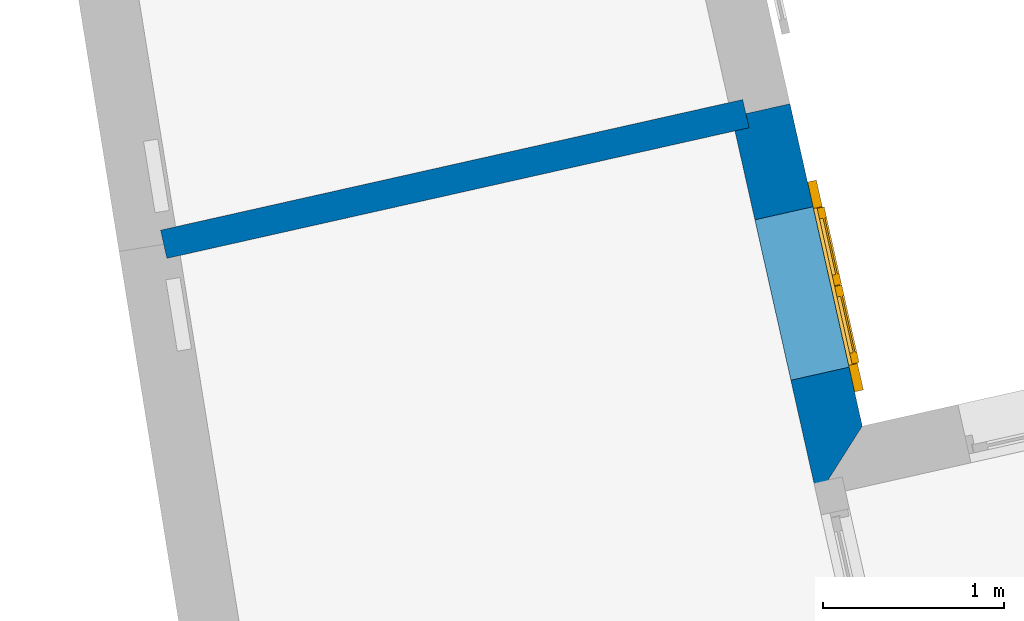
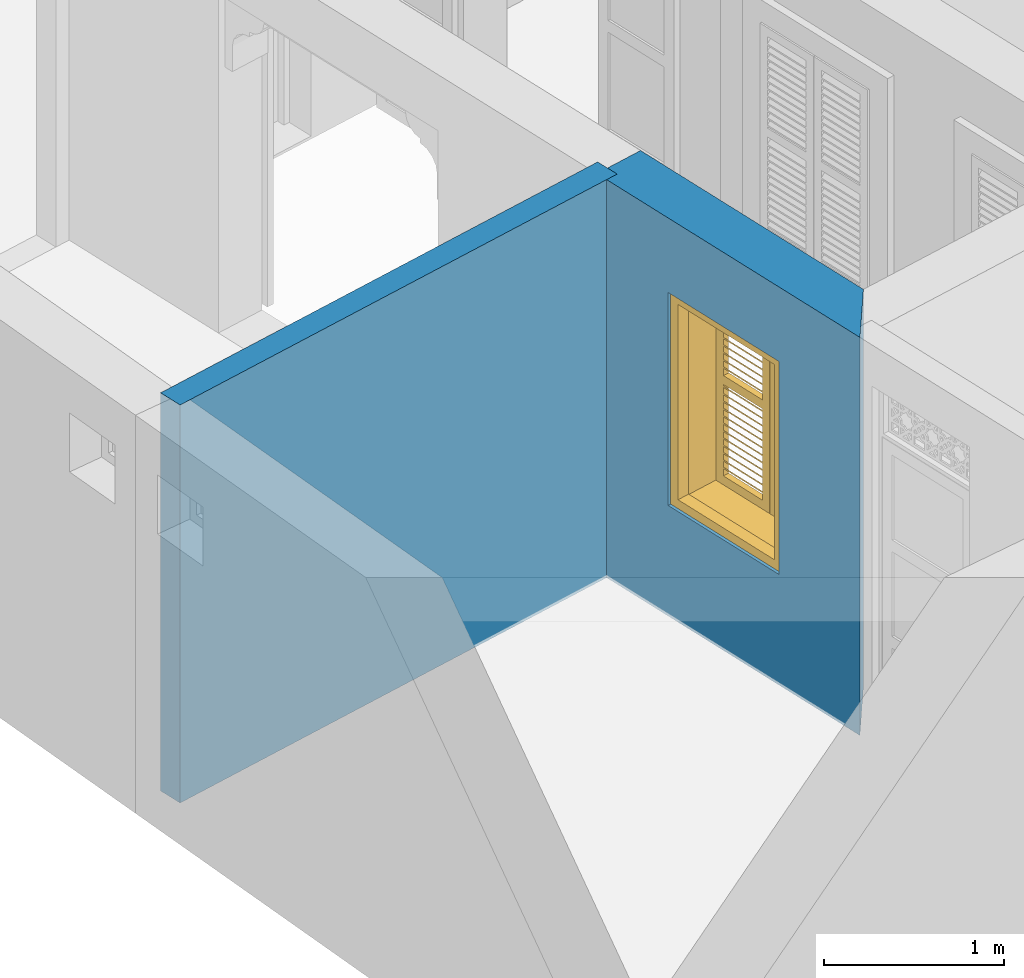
# One storey, part 5 of 13: 2 walls, 1 window, 1 opening.
"""IFC4 building model written with IfcOpenShell, lengths in metres."""

from ifc_helpers import new_model, si_unit, frame, origin, origin_with_axes, place, context, subcontext, project, spatial, polyline, outline, extrude, faceted_brep, source, transform, mapped, material, layer, layer_set, layer_usage, type_object, type_shapes, element, fill, save


model = new_model("IFC4")

# Units and contexts
model_context = context("Model", 3, world=origin_with_axes())
body_context = subcontext(model_context, "Body", "Model", "MODEL_VIEW")
ifc_project = project(units=[si_unit("PLANEANGLEUNIT", "RADIAN"), si_unit("MASSUNIT", "GRAM", prefix="KILO"), si_unit("FORCEUNIT", "NEWTON", prefix="KILO"), si_unit("LENGTHUNIT", "METRE"), si_unit("AREAUNIT", "SQUARE_METRE"), si_unit("VOLUMEUNIT", "CUBIC_METRE")], contexts=[model_context, model_context])

# Site, building, storey
site_placement = place(None, origin_with_axes())
site = spatial("IfcSite", under=ifc_project, at=site_placement, Name="Site plot-10", CompositionType="ELEMENT")
building_placement = place(None, origin_with_axes())
building = spatial("IfcBuilding", under=site, at=building_placement, Name="Building plot-10", CompositionType="ELEMENT")
storey_placement = place(None, origin_with_axes())
storey = spatial("IfcBuildingStorey", under=building, at=storey_placement, Name="plot-10 0", CompositionType="ELEMENT", Elevation=0.0)

# Wall, opening, window
ifc_material_1 = material(Name="Masonry")
ifc_layer_1 = layer(ifc_material_1, 0.33, ventilated=False)
ifc_layer_set_1 = layer_set([ifc_layer_1], Name="exterior_0.08_0.25")
ifc_layer_usage_1 = layer_usage(ifc_layer_set_1, "AXIS2", "POSITIVE", -0.25)
wall_type_1 = type_object("IfcWallType", Name="exterior_0.08_0.25", PredefinedType="SOLIDWALL", material=ifc_layer_set_1)
wall_1_placement = place(storey_placement, frame((-20.1259409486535, 10.8494225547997, 0.0), z_axis=(0.0, 0.0, 1.0), x_axis=(-0.218925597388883, 0.975741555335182, 0.0)))
wall_1 = element("IfcWall", 1, at=wall_1_placement, inside=storey, type_object=wall_type_1, material=ifc_layer_usage_1, Name="exterior", context=body_context, shape_type="SweptSolid", body=[
    extrude(outline(polyline([(-0.079999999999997, 0.0799999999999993), (0.249999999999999, -0.249999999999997), (2.07804371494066, -0.249999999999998), (2.07804371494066, 0.0799999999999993), (-0.079999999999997, 0.0799999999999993)])), origin_with_axes(), (0.0, 0.0, 1.0), 2.7),
])
opening_placement = place(wall_1_placement, frame((0.58402185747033, 0.0, 0.75)))
opening = element("IfcOpeningElement", 2, at=opening_placement, cuts=wall_1, Name="My Opening", ObjectType="Opening", context=body_context, shape_type="SweptSolid", body=[
    extrude(outline(polyline([(0.0, -0.269999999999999), (0.909999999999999, -0.269999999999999), (0.91, 1.1), (2.22044604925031e-16, 1.1), (0.0, -0.269999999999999)])), origin_with_axes(), (0.0, 0.0, 1.0), 1.445),
])
window_type = type_object("IfcWindowType", Name="shuttered_shorter", PartitioningType="DOUBLE_PANEL_HORIZONTAL", PredefinedType="NOTDEFINED")
shared_shape = source(origin(), body_context, "Body", "Brep", [
    faceted_brep([(0.393, 0.0, 0.622), (0.074, 0.0, 0.622), (0.074, 0.0, 0.632), (0.393, 0.0, 0.632), (0.074, -0.04, 0.592), (0.393, -0.04, 0.592), (0.393, -0.04, 0.582), (0.074, -0.04, 0.582), (0.517, 0.0, 0.682), (0.836, 0.0, 0.682), (0.836, 0.0, 0.672), (0.517, 0.0, 0.672), (0.517, -0.04, 0.642), (0.836, -0.04, 0.642), (0.836, -0.04, 0.632), (0.517, -0.04, 0.632), (0.517, 0.0, 0.632), (0.836, 0.0, 0.632), (0.836, 0.0, 0.622), (0.517, 0.0, 0.622), (0.517, -0.04, 0.592), (0.836, -0.04, 0.592), (0.836, -0.04, 0.582), (0.517, -0.04, 0.582), (0.517, 0.0, 0.232), (0.836, 0.0, 0.232), (0.836, 0.0, 0.222), (0.517, 0.0, 0.222), (0.517, -0.04, 0.192), (0.836, -0.04, 0.192), (0.836, -0.04, 0.182), (0.517, -0.04, 0.182), (0.517, 0.0, 0.532), (0.836, 0.0, 0.532), (0.836, 0.0, 0.522), (0.517, 0.0, 0.522), (0.517, -0.04, 0.492), (0.836, -0.04, 0.492), (0.836, -0.04, 0.482), (0.517, -0.04, 0.482), (0.517, 0.0, 0.482), (0.836, 0.0, 0.482), (0.836, 0.0, 0.472), (0.517, 0.0, 0.472), (0.517, -0.04, 0.442), (0.836, -0.04, 0.442), (0.836, -0.04, 0.432), (0.517, -0.04, 0.432), (0.517, 0.0, 0.582), (0.836, 0.0, 0.582), (0.836, 0.0, 0.572), (0.517, 0.0, 0.572), (0.517, -0.04, 0.542), (0.836, -0.04, 0.542), (0.836, -0.04, 0.532), (0.517, -0.04, 0.532), (0.517, 0.0, 0.182), (0.836, 0.0, 0.182), (0.836, 0.0, 0.172), (0.517, 0.0, 0.172), (0.517, -0.04, 0.142), (0.836, -0.04, 0.142), (0.836, -0.04, 0.132), (0.517, -0.04, 0.132), (0.517, 0.0, 0.382), (0.836, 0.0, 0.382), (0.836, 0.0, 0.372), (0.517, 0.0, 0.372), (0.517, -0.04, 0.342), (0.836, -0.04, 0.342), (0.836, -0.04, 0.332), (0.517, -0.04, 0.332), (0.517, 0.0, 0.432), (0.836, 0.0, 0.432), (0.836, 0.0, 0.422), (0.517, 0.0, 0.422), (0.517, -0.04, 0.392), (0.836, -0.04, 0.392), (0.836, -0.04, 0.382), (0.517, -0.04, 0.382), (0.517, 0.0, 0.132), (0.836, 0.0, 0.132), (0.836, 0.0, 0.122), (0.517, 0.0, 0.122), (0.517, -0.04, 0.092), (0.836, -0.04, 0.092), (0.836, -0.04, 0.082), (0.517, -0.04, 0.082), (0.517, 0.0, 0.282), (0.836, 0.0, 0.282), (0.836, 0.0, 0.272), (0.517, 0.0, 0.272), (0.517, -0.04, 0.242), (0.836, -0.04, 0.242), (0.836, -0.04, 0.232), (0.517, -0.04, 0.232), (0.517, 0.0, 0.332), (0.836, 0.0, 0.332), (0.836, 0.0, 0.322), (0.517, 0.0, 0.322), (0.517, -0.04, 0.292), (0.836, -0.04, 0.292), (0.836, -0.04, 0.282), (0.517, -0.04, 0.282), (0.517, 0.0, 1.362667), (0.836, 0.0, 1.362667), (0.836, 0.0, 1.352667), (0.517, 0.0, 1.352667), (0.517, -0.04, 1.322667), (0.836, -0.04, 1.322667), (0.836, -0.04, 1.312667), (0.517, -0.04, 1.312667), (0.517, 0.0, 1.312667), (0.836, 0.0, 1.312667), (0.836, 0.0, 1.302667), (0.517, 0.0, 1.302667), (0.517, -0.04, 1.272667), (0.836, -0.04, 1.272667), (0.836, -0.04, 1.262667), (0.517, -0.04, 1.262667), (0.517, 0.0, 0.912667), (0.836, 0.0, 0.912667), (0.836, 0.0, 0.902667), (0.517, 0.0, 0.902667), (0.517, -0.04, 0.872667), (0.836, -0.04, 0.872667), (0.836, -0.04, 0.862667), (0.517, -0.04, 0.862667), (0.517, 0.0, 1.212667), (0.836, 0.0, 1.212667), (0.836, 0.0, 1.202667), (0.517, 0.0, 1.202667), (0.517, -0.04, 1.172667), (0.836, -0.04, 1.172667), (0.836, -0.04, 1.162667), (0.517, -0.04, 1.162667), (0.517, 0.0, 1.162667), (0.836, 0.0, 1.162667), (0.836, 0.0, 1.152667), (0.517, 0.0, 1.152667), (0.517, -0.04, 1.122667), (0.836, -0.04, 1.122667), (0.836, -0.04, 1.112667), (0.517, -0.04, 1.112667), (0.517, 0.0, 1.262667), (0.836, 0.0, 1.262667), (0.836, 0.0, 1.252667), (0.517, 0.0, 1.252667), (0.517, -0.04, 1.222667), (0.836, -0.04, 1.222667), (0.836, -0.04, 1.212667), (0.517, -0.04, 1.212667), (0.517, 0.0, 0.862667), (0.836, 0.0, 0.862667), (0.836, 0.0, 0.852667), (0.517, 0.0, 0.852667), (0.517, -0.04, 0.822667), (0.836, -0.04, 0.822667), (0.836, -0.04, 0.812667), (0.517, -0.04, 0.812667), (0.517, 0.0, 1.062667), (0.836, 0.0, 1.062667), (0.836, 0.0, 1.052667), (0.517, 0.0, 1.052667), (0.517, -0.04, 1.022667), (0.836, -0.04, 1.022667), (0.836, -0.04, 1.012667), (0.517, -0.04, 1.012667), (0.517, 0.0, 1.112667), (0.836, 0.0, 1.112667), (0.836, 0.0, 1.102667), (0.517, 0.0, 1.102667), (0.517, -0.04, 1.072667), (0.836, -0.04, 1.072667), (0.836, -0.04, 1.062667), (0.517, -0.04, 1.062667), (0.517, 0.0, 0.812667), (0.836, 0.0, 0.812667), (0.836, 0.0, 0.802667), (0.517, 0.0, 0.802667), (0.517, -0.04, 0.772667), (0.836, -0.04, 0.772667), (0.836, -0.04, 0.762667), (0.517, -0.04, 0.762667), (0.517, 0.0, 0.962667), (0.836, 0.0, 0.962667), (0.836, 0.0, 0.952667), (0.517, 0.0, 0.952667), (0.517, -0.04, 0.922667), (0.836, -0.04, 0.922667), (0.836, -0.04, 0.912667), (0.517, -0.04, 0.912667), (0.517, 0.0, 1.012667), (0.836, 0.0, 1.012667), (0.836, 0.0, 1.002667), (0.517, 0.0, 1.002667), (0.517, -0.04, 0.972667), (0.836, -0.04, 0.972667), (0.836, -0.04, 0.962667), (0.517, -0.04, 0.962667), (0.074, 0.0, 0.682), (0.393, 0.0, 0.682), (0.393, 0.0, 0.672), (0.074, 0.0, 0.672), (0.074, -0.04, 0.642), (0.393, -0.04, 0.642), (0.393, -0.04, 0.632), (0.074, -0.04, 0.632), (0.074, 0.0, 0.232), (0.393, 0.0, 0.232), (0.393, 0.0, 0.222), (0.074, 0.0, 0.222), (0.074, -0.04, 0.192), (0.393, -0.04, 0.192), (0.393, -0.04, 0.182), (0.074, -0.04, 0.182), (0.074, 0.0, 0.532), (0.393, 0.0, 0.532), (0.393, 0.0, 0.522), (0.074, 0.0, 0.522), (0.074, -0.04, 0.492), (0.393, -0.04, 0.492), (0.393, -0.04, 0.482), (0.074, -0.04, 0.482), (0.074, 0.0, 0.482), (0.393, 0.0, 0.482), (0.393, 0.0, 0.472), (0.074, 0.0, 0.472), (0.074, -0.04, 0.442), (0.393, -0.04, 0.442), (0.393, -0.04, 0.432), (0.074, -0.04, 0.432), (0.074, 0.0, 0.582), (0.393, 0.0, 0.582), (0.393, 0.0, 0.572), (0.074, 0.0, 0.572), (0.074, -0.04, 0.542), (0.393, -0.04, 0.542), (0.393, -0.04, 0.532), (0.074, -0.04, 0.532), (0.074, 0.0, 0.182), (0.393, 0.0, 0.182), (0.393, 0.0, 0.172), (0.074, 0.0, 0.172), (0.074, -0.04, 0.142), (0.393, -0.04, 0.142), (0.393, -0.04, 0.132), (0.074, -0.04, 0.132), (0.074, 0.0, 0.382), (0.393, 0.0, 0.382), (0.393, 0.0, 0.372), (0.074, 0.0, 0.372), (0.074, -0.04, 0.342), (0.393, -0.04, 0.342), (0.393, -0.04, 0.332), (0.074, -0.04, 0.332), (0.074, 0.0, 0.432), (0.393, 0.0, 0.432), (0.393, 0.0, 0.422), (0.074, 0.0, 0.422), (0.074, -0.04, 0.392), (0.393, -0.04, 0.392), (0.393, -0.04, 0.382), (0.074, -0.04, 0.382), (0.074, 0.0, 0.132), (0.393, 0.0, 0.132), (0.393, 0.0, 0.122), (0.074, 0.0, 0.122), (0.074, -0.04, 0.092), (0.393, -0.04, 0.092), (0.393, -0.04, 0.082), (0.074, -0.04, 0.082), (0.074, 0.0, 0.282), (0.393, 0.0, 0.282), (0.393, 0.0, 0.272), (0.074, 0.0, 0.272), (0.074, -0.04, 0.242), (0.393, -0.04, 0.242), (0.393, -0.04, 0.232), (0.074, -0.04, 0.232), (0.074, 0.0, 0.332), (0.393, 0.0, 0.332), (0.393, 0.0, 0.322), (0.074, 0.0, 0.322), (0.074, -0.04, 0.292), (0.393, -0.04, 0.292), (0.393, -0.04, 0.282), (0.074, -0.04, 0.282), (0.074, 0.0, 1.362667), (0.393, 0.0, 1.362667), (0.393, 0.0, 1.352667), (0.074, 0.0, 1.352667), (0.074, -0.04, 1.322667), (0.393, -0.04, 1.322667), (0.393, -0.04, 1.312667), (0.074, -0.04, 1.312667), (0.074, 0.0, 1.312667), (0.393, 0.0, 1.312667), (0.393, 0.0, 1.302667), (0.074, 0.0, 1.302667), (0.074, -0.04, 1.272667), (0.393, -0.04, 1.272667), (0.393, -0.04, 1.262667), (0.074, -0.04, 1.262667), (0.074, 0.0, 0.912667), (0.393, 0.0, 0.912667), (0.393, 0.0, 0.902667), (0.074, 0.0, 0.902667), (0.074, -0.04, 0.872667), (0.393, -0.04, 0.872667), (0.393, -0.04, 0.862667), (0.074, -0.04, 0.862667), (0.074, 0.0, 1.212667), (0.393, 0.0, 1.212667), (0.393, 0.0, 1.202667), (0.074, 0.0, 1.202667), (0.074, -0.04, 1.172667), (0.393, -0.04, 1.172667), (0.393, -0.04, 1.162667), (0.074, -0.04, 1.162667), (0.074, 0.0, 1.162667), (0.393, 0.0, 1.162667), (0.393, 0.0, 1.152667), (0.074, 0.0, 1.152667), (0.074, -0.04, 1.122667), (0.393, -0.04, 1.122667), (0.393, -0.04, 1.112667), (0.074, -0.04, 1.112667), (0.074, 0.0, 1.262667), (0.393, 0.0, 1.262667), (0.393, 0.0, 1.252667), (0.074, 0.0, 1.252667), (0.074, -0.04, 1.222667), (0.393, -0.04, 1.222667), (0.393, -0.04, 1.212667), (0.074, -0.04, 1.212667), (0.074, 0.0, 0.862667), (0.393, 0.0, 0.862667), (0.393, 0.0, 0.852667), (0.074, 0.0, 0.852667), (0.074, -0.04, 0.822667), (0.393, -0.04, 0.822667), (0.393, -0.04, 0.812667), (0.074, -0.04, 0.812667), (0.074, 0.0, 1.062667), (0.393, 0.0, 1.062667), (0.393, 0.0, 1.052667), (0.074, 0.0, 1.052667), (0.074, -0.04, 1.022667), (0.393, -0.04, 1.022667), (0.393, -0.04, 1.012667), (0.074, -0.04, 1.012667), (0.074, 0.0, 1.112667), (0.393, 0.0, 1.112667), (0.393, 0.0, 1.102667), (0.074, 0.0, 1.102667), (0.074, -0.04, 1.072667), (0.393, -0.04, 1.072667), (0.393, -0.04, 1.062667), (0.074, -0.04, 1.062667), (0.074, 0.0, 0.812667), (0.393, 0.0, 0.812667), (0.393, 0.0, 0.802667), (0.074, 0.0, 0.802667), (0.074, -0.04, 0.772667), (0.393, -0.04, 0.772667), (0.393, -0.04, 0.762667), (0.074, -0.04, 0.762667), (0.074, 0.0, 0.962667), (0.393, 0.0, 0.962667), (0.393, 0.0, 0.952667), (0.074, 0.0, 0.952667), (0.074, -0.04, 0.922667), (0.393, -0.04, 0.922667), (0.393, -0.04, 0.912667), (0.074, -0.04, 0.912667), (0.074, 0.0, 1.012667), (0.393, 0.0, 1.012667), (0.393, 0.0, 1.002667), (0.074, 0.0, 1.002667), (0.074, -0.04, 0.972667), (0.393, -0.04, 0.972667), (0.393, -0.04, 0.962667), (0.074, -0.04, 0.962667), (0.517, -0.04, 0.072), (0.457, -0.04, 0.012), (0.896, -0.04, 0.012), (0.836, -0.04, 0.072), (0.457, -0.04, 0.692667), (0.517, -0.04, 0.692667), (0.457, 0.0, 0.012), (0.896, 0.0, 0.012), (0.836, -0.04, 0.692667), (0.896, -0.04, 0.692667), (0.836, 0.0, 0.072), (0.517, 0.0, 0.072), (0.457, 0.0, 0.692667), (0.517, 0.0, 0.692667), (0.517, -0.04, 0.752666), (0.457, -0.04, 0.752666), (0.896, 0.0, 0.692667), (0.836, 0.0, 0.692667), (0.836, -0.04, 0.752666), (0.896, -0.04, 0.752666), (0.457, 0.0, 0.752666), (0.457, -0.04, 1.433333), (0.517, -0.04, 1.373333), (0.896, 0.0, 0.752666), (0.836, -0.04, 1.373333), (0.896, -0.04, 1.433333), (0.457, 0.0, 1.433333), (0.517, 0.0, 0.752666), (0.836, 0.0, 0.752666), (0.517, 0.0, 1.373333), (0.896, 0.0, 1.433333), (0.836, 0.0, 1.373333), (0.074, -0.04, 0.072), (0.014, -0.04, 0.012), (0.453, -0.04, 0.012), (0.393, -0.04, 0.072), (0.014, -0.04, 0.692667), (0.074, -0.04, 0.692667), (0.014, 0.0, 0.012), (0.453, 0.0, 0.012), (0.393, -0.04, 0.692667), (0.453, -0.04, 0.692667), (0.393, 0.0, 0.072), (0.074, 0.0, 0.072), (0.014, 0.0, 0.692667), (0.074, 0.0, 0.692667), (0.074, -0.04, 0.752666), (0.014, -0.04, 0.752666), (0.453, 0.0, 0.692667), (0.393, 0.0, 0.692667), (0.393, -0.04, 0.752666), (0.453, -0.04, 0.752666), (0.014, 0.0, 0.752666), (0.014, -0.04, 1.433333), (0.074, -0.04, 1.373333), (0.453, 0.0, 0.752666), (0.393, -0.04, 1.373333), (0.453, -0.04, 1.433333), (0.014, 0.0, 1.433333), (0.074, 0.0, 0.752666), (0.393, 0.0, 0.752666), (0.074, 0.0, 1.373333), (0.453, 0.0, 1.433333), (0.393, 0.0, 1.373333), (0.0, 0.33, 1.445), (0.91, 0.33, 1.445), (0.85, 0.33, 1.385), (0.06, 0.33, 1.385), (0.91, 0.25, 1.445), (0.0, 0.25, 1.445), (0.91, 0.25, 1.445), (0.85, 0.33, 0.06), (0.91, 0.33, 0.0), (0.85, 0.25, 1.385), (0.06, 0.25, 1.385), (0.0, 0.33, 0.0), (0.06, 0.33, 0.06), (0.0, 0.25, 0.0), (0.91, 0.25, 0.0), (0.85, 0.25, 0.06), (0.06, 0.25, 0.06), (1.05, 0.25, 1.585), (-0.14, 0.25, 1.585), (-0.14, -0.03, 1.585), (1.05, -0.03, 1.585), (0.9, -0.03, 1.435), (0.01, -0.03, 1.435), (0.01, 0.25, 1.435), (0.9, 0.25, 1.435), (0.9, 0.25, 0.01), (0.9, -0.03, 0.01), (1.05, -0.03, -0.14), (1.05, 0.25, -0.14), (0.01, -0.03, 0.01), (0.01, 0.25, 0.01), (-0.14, -0.03, -0.14), (-0.14, 0.25, -0.14)], [[[0, 1, 2, 3]], [[4, 5, 3, 2]], [[5, 6, 0, 3]], [[1, 0, 6, 7]], [[2, 1, 7, 4]], [[5, 4, 7, 6]], [[8, 9, 10, 11]], [[12, 13, 9, 8]], [[13, 14, 10, 9]], [[14, 15, 11, 10]], [[15, 12, 8, 11]], [[13, 12, 15, 14]], [[16, 17, 18, 19]], [[20, 21, 17, 16]], [[21, 22, 18, 17]], [[22, 23, 19, 18]], [[23, 20, 16, 19]], [[21, 20, 23, 22]], [[24, 25, 26, 27]], [[28, 29, 25, 24]], [[29, 30, 26, 25]], [[30, 31, 27, 26]], [[31, 28, 24, 27]], [[29, 28, 31, 30]], [[32, 33, 34, 35]], [[36, 37, 33, 32]], [[37, 38, 34, 33]], [[38, 39, 35, 34]], [[39, 36, 32, 35]], [[37, 36, 39, 38]], [[40, 41, 42, 43]], [[44, 45, 41, 40]], [[45, 46, 42, 41]], [[46, 47, 43, 42]], [[47, 44, 40, 43]], [[45, 44, 47, 46]], [[48, 49, 50, 51]], [[52, 53, 49, 48]], [[53, 54, 50, 49]], [[54, 55, 51, 50]], [[55, 52, 48, 51]], [[53, 52, 55, 54]], [[56, 57, 58, 59]], [[60, 61, 57, 56]], [[61, 62, 58, 57]], [[62, 63, 59, 58]], [[63, 60, 56, 59]], [[61, 60, 63, 62]], [[64, 65, 66, 67]], [[68, 69, 65, 64]], [[69, 70, 66, 65]], [[70, 71, 67, 66]], [[71, 68, 64, 67]], [[69, 68, 71, 70]], [[72, 73, 74, 75]], [[76, 77, 73, 72]], [[77, 78, 74, 73]], [[78, 79, 75, 74]], [[79, 76, 72, 75]], [[77, 76, 79, 78]], [[80, 81, 82, 83]], [[84, 85, 81, 80]], [[85, 86, 82, 81]], [[86, 87, 83, 82]], [[87, 84, 80, 83]], [[85, 84, 87, 86]], [[88, 89, 90, 91]], [[92, 93, 89, 88]], [[93, 94, 90, 89]], [[94, 95, 91, 90]], [[95, 92, 88, 91]], [[93, 92, 95, 94]], [[96, 97, 98, 99]], [[100, 101, 97, 96]], [[101, 102, 98, 97]], [[102, 103, 99, 98]], [[103, 100, 96, 99]], [[101, 100, 103, 102]], [[104, 105, 106, 107]], [[108, 109, 105, 104]], [[109, 110, 106, 105]], [[110, 111, 107, 106]], [[111, 108, 104, 107]], [[109, 108, 111, 110]], [[112, 113, 114, 115]], [[116, 117, 113, 112]], [[117, 118, 114, 113]], [[118, 119, 115, 114]], [[119, 116, 112, 115]], [[117, 116, 119, 118]], [[120, 121, 122, 123]], [[124, 125, 121, 120]], [[125, 126, 122, 121]], [[126, 127, 123, 122]], [[127, 124, 120, 123]], [[125, 124, 127, 126]], [[128, 129, 130, 131]], [[132, 133, 129, 128]], [[133, 134, 130, 129]], [[134, 135, 131, 130]], [[135, 132, 128, 131]], [[133, 132, 135, 134]], [[136, 137, 138, 139]], [[140, 141, 137, 136]], [[141, 142, 138, 137]], [[142, 143, 139, 138]], [[139, 143, 140, 136]], [[141, 140, 143, 142]], [[144, 145, 146, 147]], [[148, 149, 145, 144]], [[149, 150, 146, 145]], [[150, 151, 147, 146]], [[151, 148, 144, 147]], [[149, 148, 151, 150]], [[152, 153, 154, 155]], [[156, 157, 153, 152]], [[157, 158, 154, 153]], [[158, 159, 155, 154]], [[159, 156, 152, 155]], [[157, 156, 159, 158]], [[160, 161, 162, 163]], [[164, 165, 161, 160]], [[165, 166, 162, 161]], [[166, 167, 163, 162]], [[167, 164, 160, 163]], [[165, 164, 167, 166]], [[168, 169, 170, 171]], [[172, 173, 169, 168]], [[173, 174, 170, 169]], [[174, 175, 171, 170]], [[175, 172, 168, 171]], [[173, 172, 175, 174]], [[176, 177, 178, 179]], [[180, 181, 177, 176]], [[181, 182, 178, 177]], [[182, 183, 179, 178]], [[183, 180, 176, 179]], [[181, 180, 183, 182]], [[184, 185, 186, 187]], [[188, 189, 185, 184]], [[189, 190, 186, 185]], [[190, 191, 187, 186]], [[191, 188, 184, 187]], [[189, 188, 191, 190]], [[192, 193, 194, 195]], [[196, 197, 193, 192]], [[197, 198, 194, 193]], [[198, 199, 195, 194]], [[199, 196, 192, 195]], [[197, 196, 199, 198]], [[200, 201, 202, 203]], [[204, 205, 201, 200]], [[205, 206, 202, 201]], [[206, 207, 203, 202]], [[207, 204, 200, 203]], [[205, 204, 207, 206]], [[208, 209, 210, 211]], [[212, 213, 209, 208]], [[213, 214, 210, 209]], [[214, 215, 211, 210]], [[215, 212, 208, 211]], [[213, 212, 215, 214]], [[216, 217, 218, 219]], [[220, 221, 217, 216]], [[221, 222, 218, 217]], [[222, 223, 219, 218]], [[223, 220, 216, 219]], [[221, 220, 223, 222]], [[224, 225, 226, 227]], [[228, 229, 225, 224]], [[229, 230, 226, 225]], [[230, 231, 227, 226]], [[231, 228, 224, 227]], [[229, 228, 231, 230]], [[232, 233, 234, 235]], [[236, 237, 233, 232]], [[237, 238, 234, 233]], [[238, 239, 235, 234]], [[239, 236, 232, 235]], [[237, 236, 239, 238]], [[240, 241, 242, 243]], [[244, 245, 241, 240]], [[245, 246, 242, 241]], [[246, 247, 243, 242]], [[247, 244, 240, 243]], [[245, 244, 247, 246]], [[248, 249, 250, 251]], [[252, 253, 249, 248]], [[253, 254, 250, 249]], [[254, 255, 251, 250]], [[255, 252, 248, 251]], [[253, 252, 255, 254]], [[256, 257, 258, 259]], [[260, 261, 257, 256]], [[261, 262, 258, 257]], [[262, 263, 259, 258]], [[263, 260, 256, 259]], [[261, 260, 263, 262]], [[264, 265, 266, 267]], [[268, 269, 265, 264]], [[269, 270, 266, 265]], [[270, 271, 267, 266]], [[271, 268, 264, 267]], [[269, 268, 271, 270]], [[272, 273, 274, 275]], [[276, 277, 273, 272]], [[277, 278, 274, 273]], [[278, 279, 275, 274]], [[279, 276, 272, 275]], [[277, 276, 279, 278]], [[280, 281, 282, 283]], [[284, 285, 281, 280]], [[285, 286, 282, 281]], [[286, 287, 283, 282]], [[287, 284, 280, 283]], [[285, 284, 287, 286]], [[288, 289, 290, 291]], [[292, 293, 289, 288]], [[293, 294, 290, 289]], [[294, 295, 291, 290]], [[295, 292, 288, 291]], [[293, 292, 295, 294]], [[296, 297, 298, 299]], [[300, 301, 297, 296]], [[301, 302, 298, 297]], [[302, 303, 299, 298]], [[303, 300, 296, 299]], [[301, 300, 303, 302]], [[304, 305, 306, 307]], [[308, 309, 305, 304]], [[309, 310, 306, 305]], [[310, 311, 307, 306]], [[311, 308, 304, 307]], [[309, 308, 311, 310]], [[312, 313, 314, 315]], [[316, 317, 313, 312]], [[317, 318, 314, 313]], [[318, 319, 315, 314]], [[319, 316, 312, 315]], [[317, 316, 319, 318]], [[320, 321, 322, 323]], [[324, 325, 321, 320]], [[325, 326, 322, 321]], [[326, 327, 323, 322]], [[327, 324, 320, 323]], [[325, 324, 327, 326]], [[328, 329, 330, 331]], [[332, 333, 329, 328]], [[333, 334, 330, 329]], [[334, 335, 331, 330]], [[335, 332, 328, 331]], [[333, 332, 335, 334]], [[336, 337, 338, 339]], [[340, 341, 337, 336]], [[341, 342, 338, 337]], [[342, 343, 339, 338]], [[343, 340, 336, 339]], [[341, 340, 343, 342]], [[344, 345, 346, 347]], [[348, 349, 345, 344]], [[349, 350, 346, 345]], [[350, 351, 347, 346]], [[351, 348, 344, 347]], [[349, 348, 351, 350]], [[352, 353, 354, 355]], [[356, 357, 353, 352]], [[357, 358, 354, 353]], [[358, 359, 355, 354]], [[359, 356, 352, 355]], [[357, 356, 359, 358]], [[360, 361, 362, 363]], [[364, 365, 361, 360]], [[365, 366, 362, 361]], [[366, 367, 363, 362]], [[367, 364, 360, 363]], [[365, 364, 367, 366]], [[368, 369, 370, 371]], [[372, 373, 369, 368]], [[373, 374, 370, 369]], [[374, 375, 371, 370]], [[375, 372, 368, 371]], [[373, 372, 375, 374]], [[376, 377, 378, 379]], [[380, 381, 377, 376]], [[381, 382, 378, 377]], [[382, 383, 379, 378]], [[383, 380, 376, 379]], [[381, 380, 383, 382]], [[384, 385, 386, 387]], [[388, 385, 384, 389]], [[390, 391, 386, 385]], [[392, 387, 386, 393]], [[384, 387, 394, 395]], [[390, 385, 388, 396]], [[389, 384, 395, 397]], [[389, 398, 399, 388]], [[390, 395, 394, 391]], [[400, 393, 386, 391]], [[387, 392, 401, 394]], [[402, 392, 393, 403]], [[396, 388, 399, 404]], [[390, 396, 397, 395]], [[392, 389, 397, 401]], [[398, 389, 392, 402]], [[405, 399, 398, 406]], [[394, 401, 400, 391]], [[407, 403, 393, 400]], [[408, 402, 403, 409]], [[404, 399, 405, 410]], [[411, 397, 396, 404]], [[397, 411, 412, 401]], [[398, 402, 412, 411]], [[406, 398, 411, 413]], [[405, 406, 408, 409]], [[401, 412, 407, 400]], [[414, 409, 403, 407]], [[402, 408, 415, 412]], [[405, 409, 414, 410]], [[404, 410, 413, 411]], [[408, 406, 413, 415]], [[412, 415, 414, 407]], [[413, 410, 414, 415]], [[416, 417, 418, 419]], [[420, 417, 416, 421]], [[422, 423, 418, 417]], [[424, 419, 418, 425]], [[416, 419, 426, 427]], [[422, 417, 420, 428]], [[421, 416, 427, 429]], [[421, 430, 431, 420]], [[422, 427, 426, 423]], [[432, 425, 418, 423]], [[419, 424, 433, 426]], [[434, 424, 425, 435]], [[428, 420, 431, 436]], [[422, 428, 429, 427]], [[424, 421, 429, 433]], [[430, 421, 424, 434]], [[437, 431, 430, 438]], [[426, 433, 432, 423]], [[439, 435, 425, 432]], [[440, 434, 435, 441]], [[436, 431, 437, 442]], [[443, 429, 428, 436]], [[429, 443, 444, 433]], [[430, 434, 444, 443]], [[438, 430, 443, 445]], [[437, 438, 440, 441]], [[433, 444, 439, 432]], [[446, 441, 435, 439]], [[434, 440, 447, 444]], [[437, 441, 446, 442]], [[436, 442, 445, 443]], [[440, 438, 445, 447]], [[444, 447, 446, 439]], [[445, 442, 446, 447]], [[448, 449, 450, 451]], [[452, 449, 448]], [[448, 453, 454]], [[448, 454, 452]], [[455, 450, 449, 456]], [[451, 450, 457, 458]], [[459, 448, 451, 460]], [[448, 459, 461, 453]], [[454, 453, 458, 457]], [[462, 452, 454]], [[454, 457, 463]], [[454, 463, 462]], [[456, 449, 452, 462]], [[450, 455, 463, 457]], [[456, 459, 460, 455]], [[460, 451, 458, 464]], [[459, 456, 462, 461]], [[464, 458, 453, 461]], [[461, 462, 463, 464]], [[455, 460, 464, 463]], [[465, 466, 467, 468]], [[469, 470, 471, 472]], [[473, 474, 469, 472]], [[465, 468, 475, 476]], [[470, 477, 478, 471]], [[474, 473, 478, 477]], [[474, 477, 479, 475]], [[470, 467, 479, 477]], [[470, 469, 468, 467]], [[474, 475, 468, 469]], [[471, 478, 480, 466]], [[473, 472, 465, 476]], [[473, 476, 480, 478]], [[466, 465, 472, 471]], [[480, 476, 475, 479]], [[480, 479, 467, 466]]]),
])
type_shapes(window_type, [shared_shape])
window_placement = place(storey_placement, frame((-19.9903480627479, 11.4783868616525, 0.75), z_axis=(0.0, 0.0, 1.0), x_axis=(-0.199222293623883, 0.887924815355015, 0.0)))
window = element("IfcWindow", 3, at=window_placement, inside=storey, type_object=window_type, Name="bedroom sahn window", OverallHeight=1.445, OverallWidth=0.91, context=body_context, shape_type="MappedRepresentation", body=[
    mapped(shared_shape, transform((0.0, 0.0, 0.0), scale=1.0)),
])
fill(opening, window)

# Wall
ifc_material_2 = material(Name="Masonry")
ifc_layer_2 = layer(ifc_material_2, 0.16, ventilated=False)
ifc_layer_set_2 = layer_set([ifc_layer_2], Name="interior_0.08_0.08")
ifc_layer_usage_2 = layer_usage(ifc_layer_set_2, "AXIS2", "POSITIVE", -0.08)
wall_type_2 = type_object("IfcWallType", Name="interior_0.08_0.08", PredefinedType="SOLIDWALL", material=ifc_layer_set_2)
wall_2_placement = place(storey_placement, frame((-23.8025668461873, 12.1542108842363, 0.0), z_axis=(0.0, 0.0, 1.0), x_axis=(0.975741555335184, 0.218925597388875, 0.0)))
element("IfcWall", 4, at=wall_2_placement, inside=storey, type_object=wall_type_2, material=ifc_layer_usage_2, Name="interior", context=body_context, shape_type="SweptSolid", body=[
    extrude(outline(polyline([(-1.54973528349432e-16, 0.0799999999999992), (1.6477070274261e-16, -0.0799999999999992), (3.30178510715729, -0.0799999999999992), (3.30178510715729, 0.0799999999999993), (-1.54973528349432e-16, 0.0799999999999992)])), origin_with_axes(), (0.0, 0.0, 1.0), 2.7),
])

save(model, "model.ifc")
